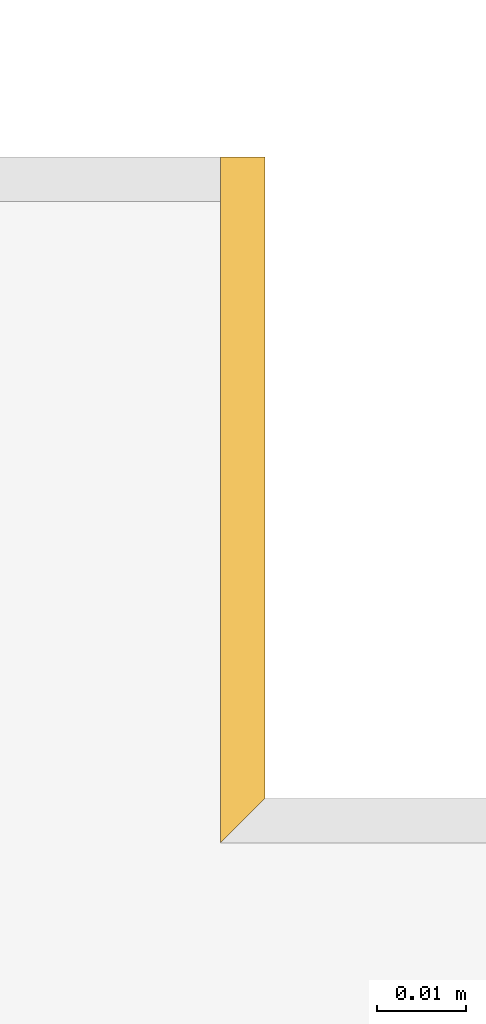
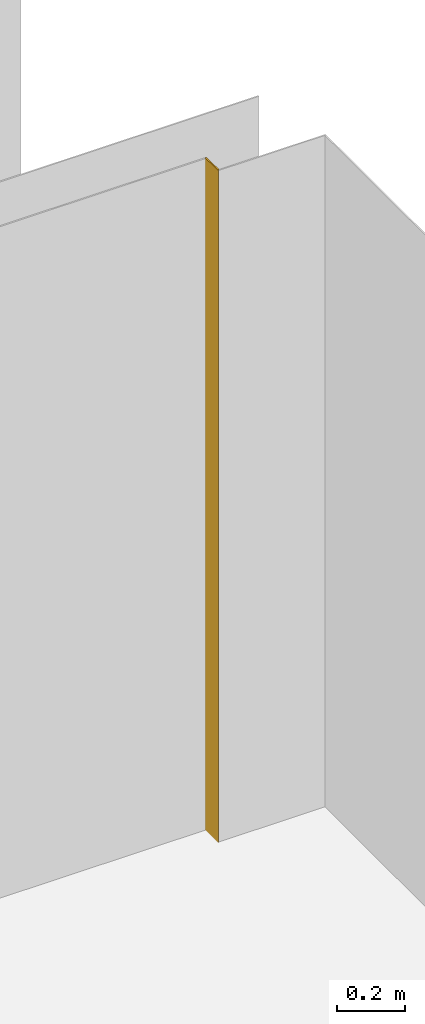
# One storey, part 13 of 16: 1 covering.
"""IFC2X3 building model written with IfcOpenShell, lengths in millimetres."""

from ifc_helpers import new_model, entity, si_unit, converted_unit, derived_unit, money_unit, direction, frame, origin_with_axes, place, context, subcontext, project, spatial, polyline, outline, extrude, material, type_object, element, save


model = new_model("IFC2X3")

# Units and contexts
model_context = context("Model", 3, precision=0.01, world=origin_with_axes(), true_north=direction((0.0, 1.0)))
body_context = subcontext(model_context, "Body", "Model", "MODEL_VIEW")
ifc_project = project(units=[si_unit("LENGTHUNIT", "METRE", prefix="MILLI"), si_unit("AREAUNIT", "SQUARE_METRE"), si_unit("VOLUMEUNIT", "CUBIC_METRE"), converted_unit("PLANEANGLEUNIT", "DEGREE", entity("IfcPlaneAngleMeasure", 0.0174532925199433), si_unit("PLANEANGLEUNIT", "RADIAN"), dimensions=[0, 0, 0, 0, 0, 0, 0]), money_unit("EUR"), converted_unit("TIMEUNIT", "Year", entity("IfcTimeMeasure", 31556926.0), si_unit("TIMEUNIT", "SECOND"), dimensions=[0, 0, 1, 0, 0, 0, 0]), si_unit("MASSUNIT", "GRAM", prefix="KILO"), si_unit("THERMODYNAMICTEMPERATUREUNIT", "DEGREE_CELSIUS"), si_unit("LUMINOUSINTENSITYUNIT", "LUMEN"), si_unit("ENERGYUNIT", "JOULE", prefix="MEGA"), derived_unit("THERMALCONDUCTANCEUNIT", [(si_unit("POWERUNIT", "WATT"), 1), (si_unit("LENGTHUNIT", "METRE"), -1), (si_unit("THERMODYNAMICTEMPERATUREUNIT", "KELVIN"), -1)]), derived_unit("SPECIFICHEATCAPACITYUNIT", [(si_unit("ENERGYUNIT", "JOULE"), 1), (si_unit("MASSUNIT", "GRAM", prefix="KILO"), -1), (si_unit("THERMODYNAMICTEMPERATUREUNIT", "KELVIN"), -1)]), derived_unit("MASSDENSITYUNIT", [(si_unit("MASSUNIT", "GRAM", prefix="KILO"), 1), (si_unit("VOLUMEUNIT", "CUBIC_METRE"), -1)])], contexts=[model_context])

# Site, building, storey
site_placement = place(None, origin_with_axes())
site = spatial("IfcSite", under=ifc_project, at=site_placement, Name="Paldiski mnt 245/1, Tallinn, Harjumaa", CompositionType="COMPLEX")
building_placement = place(site_placement, origin_with_axes())
building = spatial("IfcBuilding", under=site, at=building_placement, Name="RKAS Hoone üldnimetus (kasutust iseloomustav) -> IFC Project Manager -> SOLIBRI", CompositionType="ELEMENT")
storey_placement = place(building_placement, frame((0.0, 0.0, 3300.0), z_axis=(0.0, 0.0, 1.0), x_axis=(1.0, 0.0, 0.0)))
storey = spatial("IfcBuildingStorey", under=building, at=storey_placement, Name="Teine korrus", CompositionType="ELEMENT", Elevation=3300.0)

# Covering
ifc_material = material(Name="SA- Värv SM5(valge)")
covering_type = type_object("IfcCoveringType", Name="SA- Värv SM5(valge) 5", PredefinedType="CLADDING")
covering_placement = place(storey_placement, frame((-17590.00000000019, -6459.999999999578, 0.0), z_axis=(0.0, 0.0, 1.0), x_axis=(9.891446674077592e-07, 0.9999999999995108, 0.0)))
element("IfcCovering", 1, at=covering_placement, inside=storey, type_object=covering_type, material=ifc_material, Name="SM5", PredefinedType="CLADDING", context=body_context, shape_type="SweptSolid", body=[
    extrude(outline(polyline([(0.0, 0.0), (72.00000000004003, 0.0), (71.9999950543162, 4.999999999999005), (-5.000004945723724, 5.000000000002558), (0.0, 0.0)])), origin_with_axes(), (0.0, 0.0, 1.0), 2400.0),
])

save(model, "model.ifc")
